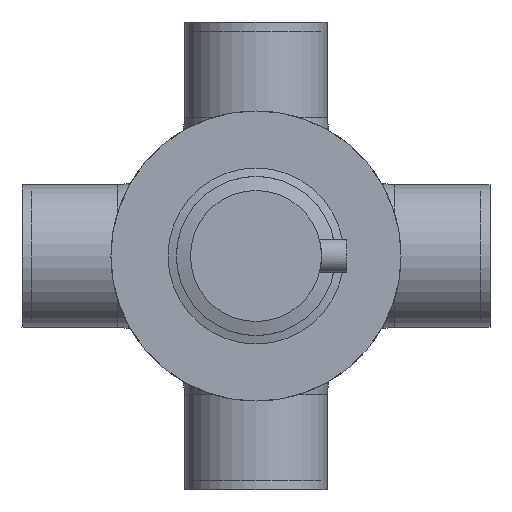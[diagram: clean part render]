
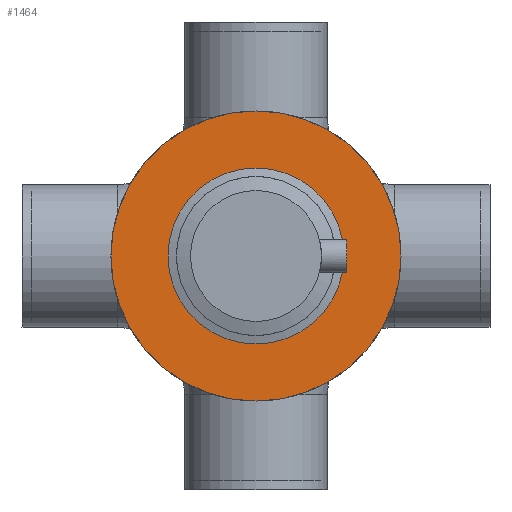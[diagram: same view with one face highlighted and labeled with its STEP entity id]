
A CAD part, front view. The second image highlights one B-rep face of the part: STEP entity #1464.
In plain terms, the highlighted planar face has unit normal (0, -1, 0).
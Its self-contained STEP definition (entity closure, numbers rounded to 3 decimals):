
#100=FACE_BOUND('',#334,.T.);
#130=PLANE('',#1755);
#215=FACE_OUTER_BOUND('',#333,.T.);
#333=EDGE_LOOP('',(#1253,#1254));
#334=EDGE_LOOP('',(#1255,#1256));
#563=CIRCLE('',#1753,42.5);
#564=CIRCLE('',#1754,42.5);
#565=CIRCLE('',#1756,77.5);
#566=CIRCLE('',#1757,77.5);
#714=VERTEX_POINT('',#2811);
#715=VERTEX_POINT('',#2813);
#716=VERTEX_POINT('',#2817);
#717=VERTEX_POINT('',#2818);
#902=EDGE_CURVE('',#715,#714,#563,.T.);
#903=EDGE_CURVE('',#714,#715,#564,.T.);
#904=EDGE_CURVE('',#716,#717,#565,.T.);
#905=EDGE_CURVE('',#717,#716,#566,.T.);
#1253=ORIENTED_EDGE('',*,*,#904,.F.);
#1254=ORIENTED_EDGE('',*,*,#905,.F.);
#1255=ORIENTED_EDGE('',*,*,#902,.T.);
#1256=ORIENTED_EDGE('',*,*,#903,.T.);
#1464=ADVANCED_FACE('',(#215,#100),#130,.F.);
#1753=AXIS2_PLACEMENT_3D('',#2814,#2223,#2224);
#1754=AXIS2_PLACEMENT_3D('',#2815,#2225,#2226);
#1755=AXIS2_PLACEMENT_3D('',#2816,#2227,#2228);
#1756=AXIS2_PLACEMENT_3D('',#2819,#2229,#2230);
#1757=AXIS2_PLACEMENT_3D('',#2820,#2231,#2232);
#2223=DIRECTION('center_axis',(0.,1.,0.));
#2224=DIRECTION('ref_axis',(1.,0.,0.));
#2225=DIRECTION('center_axis',(0.,1.,0.));
#2226=DIRECTION('ref_axis',(1.,0.,0.));
#2227=DIRECTION('center_axis',(0.,1.,0.));
#2228=DIRECTION('ref_axis',(0.,0.,1.));
#2229=DIRECTION('center_axis',(0.,1.,0.));
#2230=DIRECTION('ref_axis',(-1.,0.,0.));
#2231=DIRECTION('center_axis',(0.,1.,0.));
#2232=DIRECTION('ref_axis',(-1.,0.,0.));
#2811=CARTESIAN_POINT('',(42.5,-14.9,0.));
#2813=CARTESIAN_POINT('',(-42.5,-14.9,0.));
#2814=CARTESIAN_POINT('Origin',(0.,-14.9,0.));
#2815=CARTESIAN_POINT('Origin',(0.,-14.9,0.));
#2816=CARTESIAN_POINT('Origin',(-42.5,-14.9,0.));
#2817=CARTESIAN_POINT('',(-77.5,-14.9,0.));
#2818=CARTESIAN_POINT('',(77.5,-14.9,0.));
#2819=CARTESIAN_POINT('Origin',(0.,-14.9,0.));
#2820=CARTESIAN_POINT('Origin',(0.,-14.9,0.));
